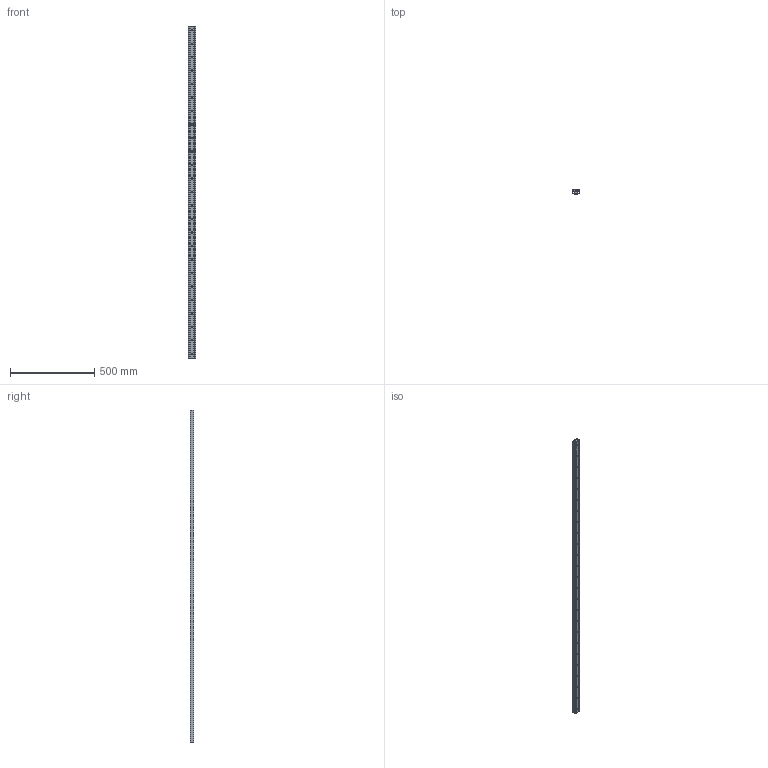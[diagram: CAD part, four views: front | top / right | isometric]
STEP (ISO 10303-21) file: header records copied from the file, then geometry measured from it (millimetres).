
FILE_DESCRIPTION(('STEP AP214'),'1');
FILE_NAME('rail_asn43-1970_00.stp','2017-06-06T10:15:57',('TraceParts'),('TraceParts S.A.'),'Spatial InterOp 3D',' ',' ');
FILE_SCHEMA(('automotive_design'));
Length unit declared in the file: millimetre
Products named in the file (2): rail_asn43-1970_00_1; rail_asn43-1970_00_2
Bounding box: 43 x 22.01 x 1970 mm (x, y, z)
Volume: 1198985.3 mm3; surface area: 463097.9 mm2
Topology: 2 solids, 2 shells, 327 faces, 804 edges, 486 vertices
Faces by surface type: cone 150, cylinder 131, plane 46
Entity records: 9880 total; most frequent: DIRECTION 1874, CARTESIAN_POINT 1619, ORIENTED_EDGE 1608, EDGE_CURVE 804, AXIS2_PLACEMENT_3D 741, VERTEX_POINT 486, EDGE_LOOP 432, CIRCLE 412
